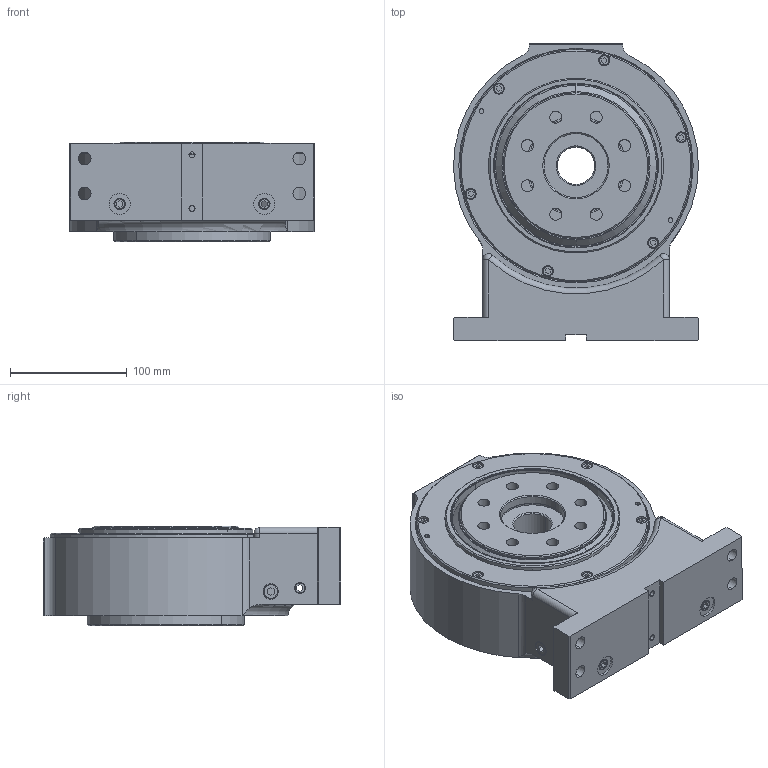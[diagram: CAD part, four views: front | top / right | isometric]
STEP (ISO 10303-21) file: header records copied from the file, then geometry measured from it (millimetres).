
FILE_DESCRIPTION (( 'STEP AP203' ), '1' );
FILE_NAME ('35052262.STEP', '2020-11-26T09:37:20', ( '' ), ( '' ), 'SwSTEP 2.0', 'SolidWorks 2019', '' );
FILE_SCHEMA (( 'CONFIG_CONTROL_DESIGN' ));
Length unit declared in the file: millimetre
Products named in the file (1): 35052262
Bounding box: 210 x 255 x 85.5 mm (x, y, z)
Surface area: 218068.6 mm2 (no closed solid volume)
Topology: 0 solids, 24 shells, 374 faces, 961 edges, 628 vertices
Faces by surface type: plane 166, cylinder 126, cone 78, torus 2, sphere 2
Entity records: 11462 total; most frequent: DIRECTION 2086, CARTESIAN_POINT 2008, ORIENTED_EDGE 1740, EDGE_CURVE 957, AXIS2_PLACEMENT_3D 758, VERTEX_POINT 626, LINE 570, VECTOR 570
